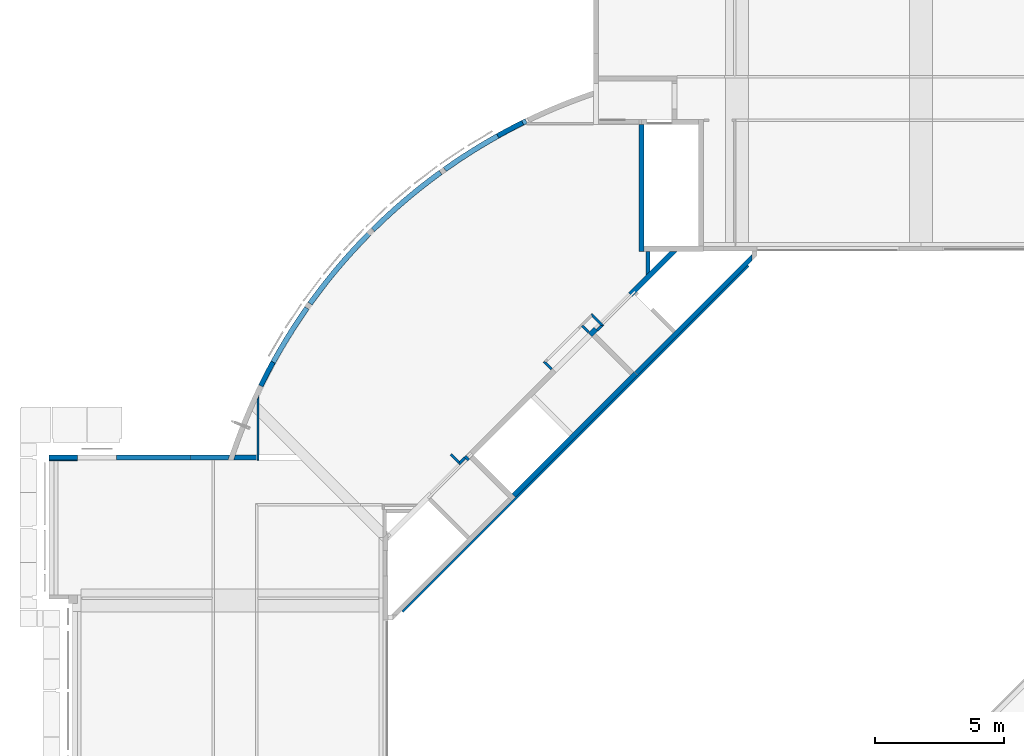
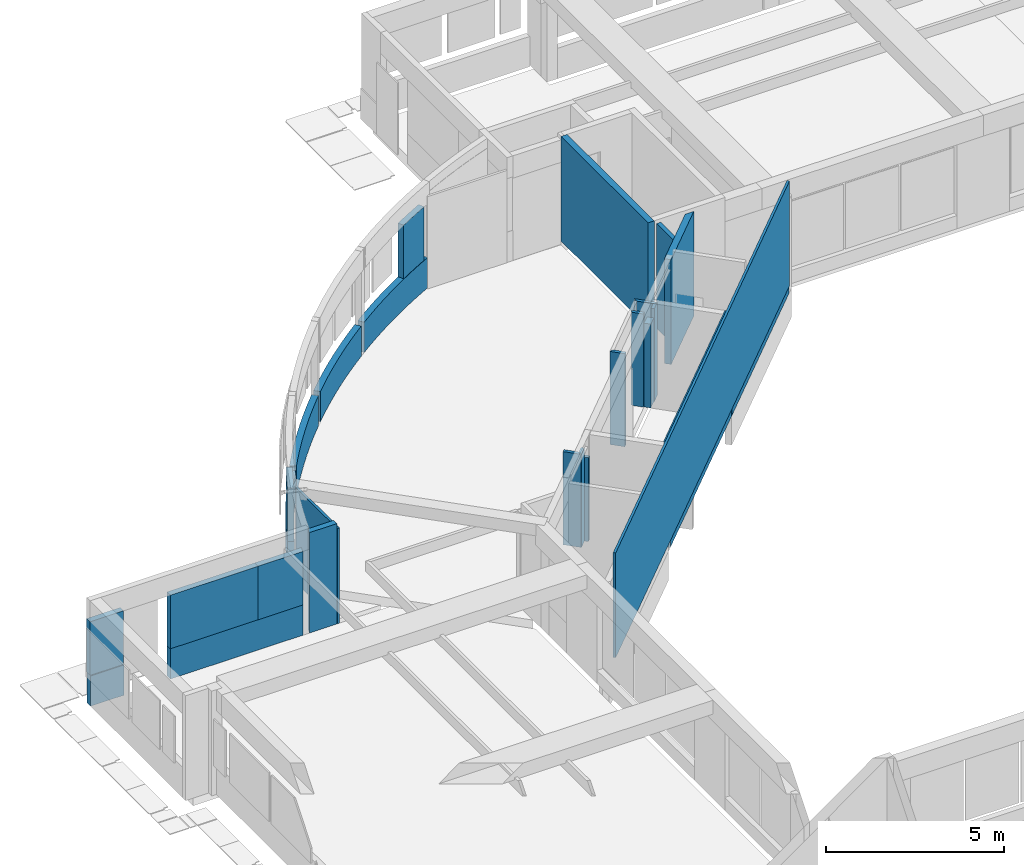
# One storey, part 16 of 26: 27 walls.
"""IFC4X3_ADD2 building model written with IfcOpenShell, lengths in millimetres."""

from ifc_helpers import new_model, si_unit, point, direction, frame, frame_2d, origin_with_axes, origin_2d_with_axis, place, context, subcontext, project, spatial, polyline, circle_curve, trimmed, segment, composite_curve, rectangle, outline, extrude, source, transform, mapped, material, type_object, type_shapes, element, save


model = new_model("IFC4X3_ADD2")

# Units and contexts
model_context = context("Model", 3, precision=1e-05, world=origin_with_axes(), true_north=direction((0.0, 1.0)))
body_context = subcontext(model_context, "Body", "Model", "MODEL_VIEW")
ifc_project = project(units=[si_unit("LENGTHUNIT", "METRE", prefix="MILLI"), si_unit("AREAUNIT", "SQUARE_METRE"), si_unit("VOLUMEUNIT", "CUBIC_METRE"), si_unit("PLANEANGLEUNIT", "RADIAN"), si_unit("TIMEUNIT", "SECOND"), si_unit("MASSUNIT", "GRAM")], contexts=[model_context])

# Site, building, storey
site_placement = place(None, origin_with_axes())
site = spatial("IfcSite", under=ifc_project, at=site_placement, Name="Site", CompositionType="ELEMENT")
building_placement = place(site_placement, origin_with_axes())
building = spatial("IfcBuilding", under=site, at=building_placement, Name="IFC Building Story")
storey_placement = place(building_placement, frame((0.0, 0.0, 7200.0), z_axis=(0.0, 0.0, 1.0), x_axis=(1.0, 0.0, 0.0)))
storey = spatial("IfcBuildingStorey", under=building, at=storey_placement, Name="020", Elevation=7200.0)

# Walls
ifc_material_1 = material(Name="BB_Beton_Bestaand")
wall_type_1 = type_object("IfcWallType", Name="BB_Beton_Bestaand 200", PredefinedType="NOTDEFINED", material=ifc_material_1)
wall_1_placement = place(storey_placement, origin_with_axes())
element("IfcWall", 1, at=wall_1_placement, inside=storey, type_object=wall_type_1, Name="Basic Wall:BB_XX_Wand uit beton, 200 mm", ObjectType="Basic Wall:BB_XX_Wand uit beton, 200 mm", PredefinedType="SOLIDWALL", context=body_context, shape_type="SweptSolid", body=[
    extrude(rectangle(XDim=6670.000000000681, YDim=199.9999999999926, at=frame_2d((0.0, 0.0), x_axis=(0.7071067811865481, 0.7071067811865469))), frame((-31380.15151901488, 31521.57287525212, -200.0), z_axis=(0.0, 0.0, 1.0), x_axis=(1.0, 0.0, 0.0)), (0.0, 0.0, 1.0), 3600.0),
])
wall_2_placement = place(storey_placement, origin_with_axes())
element("IfcWall", 2, at=wall_2_placement, inside=storey, type_object=wall_type_1, Name="Basic Wall:BB_XX_Wand uit beton, 200 mm", ObjectType="Basic Wall:BB_XX_Wand uit beton, 200 mm", PredefinedType="SOLIDWALL", context=body_context, shape_type="SweptSolid", body=[
    extrude(rectangle(XDim=4900.004065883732, YDim=200.0, at=frame_2d((0.0, 0.0), x_axis=(0.0, 1.0))), frame((-28800.0, 41049.99796705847, -80.0), z_axis=(0.0, 0.0, 1.0), x_axis=(1.0, 0.0, 0.0)), (0.0, 0.0, 1.0), 3600.0),
])
wall_3_placement = place(storey_placement, origin_with_axes())
element("IfcWall", 3, at=wall_3_placement, inside=storey, type_object=wall_type_1, Name="Basic Wall:BB_XX_Wand uit beton, 200 mm", ObjectType="Basic Wall:BB_XX_Wand uit beton, 200 mm", PredefinedType="SOLIDWALL", context=body_context, shape_type="SweptSolid", body=[
    extrude(rectangle(XDim=320.0000000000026, YDim=199.9999999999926, at=frame_2d((0.0, 0.0), x_axis=(0.7071067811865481, 0.7071067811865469))), frame((-30676.58027173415, 35477.83531599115, -200.0), z_axis=(0.0, 0.0, 1.0), x_axis=(1.0, 0.0, 0.0)), (0.0, 0.0, 1.0), 2880.0),
])
wall_4_placement = place(storey_placement, origin_with_axes())
element("IfcWall", 4, at=wall_4_placement, inside=storey, type_object=wall_type_1, Name="Basic Wall:BB_XX_Wand uit beton, 200 mm", ObjectType="Basic Wall:BB_XX_Wand uit beton, 200 mm", PredefinedType="SOLIDWALL", context=body_context, shape_type="SweptSolid", body=[
    extrude(outline(polyline([(-907.0065364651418, -765.5851802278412), (694.8745021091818, 836.295858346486), (977.7172145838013, 836.295858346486), (-765.5851802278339, -907.0065364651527), (-907.0065364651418, -765.5851802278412)])), frame((-28390.71551195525, 37763.70007577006, -200.0), z_axis=(0.0, 0.0, 1.0), x_axis=(1.0, 0.0, 0.0)), (0.0, 0.0, 1.0), 3600.0),
])
wall_5_placement = place(storey_placement, origin_with_axes())
element("IfcWall", 5, at=wall_5_placement, inside=storey, type_object=wall_type_1, Name="Basic Wall:BB_XX_Wand uit beton, 200 mm", ObjectType="Basic Wall:BB_XX_Wand uit beton, 200 mm", PredefinedType="SOLIDWALL", context=body_context, shape_type="SweptSolid", body=[
    extrude(outline(composite_curve([segment(polyline([(-1516.513105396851, -1015.014196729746), (-1632.315071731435, -851.9500848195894)]), True, "CONTINUOUS"), segment(trimmed(circle_curve(frame_2d((11313.28981030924, -19081.0322847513), x_axis=(1.0, 0.0)), 22358.17800299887), [point((-1632.315071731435, -851.9500848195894))], [point((1530.65994246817, 1023.40196450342))], False, "CARTESIAN"), True, "CONTINUOUS"), segment(polyline([(1530.65994246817, 1023.40196450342), (1618.168234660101, 843.5623170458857)]), True, "CONTINUOUS"), segment(trimmed(circle_curve(frame_2d((11313.28981030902, -19081.03228475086), x_axis=(1.0, 0.0)), 22158.17800299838), [point((1618.168234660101, 843.5623170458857))], [point((-1516.513105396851, -1015.014196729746))], True, "CARTESIAN"), True, "CONTINUOUS")], self_intersect=False)), frame((-34830.13785646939, 42699.28552853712, -200.0), z_axis=(0.0, 0.0, 1.0), x_axis=(1.0, 0.0, 0.0)), (0.0, 0.0, 1.0), 1040.0),
])
wall_6_placement = place(storey_placement, origin_with_axes())
element("IfcWall", 6, at=wall_6_placement, inside=storey, type_object=wall_type_1, Name="Basic Wall:BB_XX_Wand uit beton, 200 mm", ObjectType="Basic Wall:BB_XX_Wand uit beton, 200 mm", PredefinedType="SOLIDWALL", context=body_context, shape_type="SweptSolid", body=[
    extrude(outline(composite_curve([segment(polyline([(-800.5696430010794, -1549.586084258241), (-980.2362588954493, -1461.723082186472)]), True, "CONTINUOUS"), segment(trimmed(circle_curve(frame_2d((18967.24977084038, -11216.71288721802), x_axis=(1.0, 0.0)), 22205.0000000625), [point((-980.2362588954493, -1461.723082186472))], [point((808.6257656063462, 1563.208835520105))], False, "CARTESIAN"), True, "CONTINUOUS"), segment(polyline([(808.6257656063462, 1563.208835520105), (972.1801362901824, 1448.100330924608)]), True, "CONTINUOUS"), segment(trimmed(circle_curve(frame_2d((18967.24977084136, -11216.71288721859), x_axis=(1.0, 0.0)), 22005.00000006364), [point((972.1801362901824, 1448.100330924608))], [point((-800.5696430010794, -1549.586084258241))], True, "CARTESIAN"), True, "CONTINUOUS")], self_intersect=False)), frame((-42621.70268408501, 34902.25952695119, -200.0), z_axis=(0.0, 0.0, 1.0), x_axis=(1.0, 0.0, 0.0)), (0.0, 0.0, 1.0), 1040.0),
])
wall_7_placement = place(storey_placement, origin_with_axes())
element("IfcWall", 7, at=wall_7_placement, inside=storey, type_object=wall_type_1, Name="Basic Wall:BB_XX_Wand uit beton, 200 mm", ObjectType="Basic Wall:BB_XX_Wand uit beton, 200 mm", PredefinedType="SOLIDWALL", context=body_context, shape_type="SweptSolid", body=[
    extrude(outline(composite_curve([segment(polyline([(-1061.077704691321, -1411.163488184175), (-1223.669789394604, -1294.699699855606)]), True, "CONTINUOUS"), segment(trimmed(circle_curve(frame_2d((16952.64406898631, -14314.29025160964), x_axis=(1.0, 0.0)), 22358.17800299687), [point((-1223.669789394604, -1294.699699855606))], [point((1071.342459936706, 1423.32020284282))], False, "CARTESIAN"), True, "CONTINUOUS"), segment(polyline([(1071.342459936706, 1423.32020284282), (1213.40503414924, 1282.542985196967)]), True, "CONTINUOUS"), segment(trimmed(circle_curve(frame_2d((16952.64406898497, -14314.29025160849), x_axis=(1.0, 0.0)), 22158.1780029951), [point((1213.40503414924, 1282.542985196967))], [point((-1061.077704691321, -1411.163488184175))], True, "CARTESIAN"), True, "CONTINUOUS")], self_intersect=False)), frame((-40469.49211514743, 37932.54349539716, -200.0), z_axis=(0.0, 0.0, 1.0), x_axis=(1.0, 0.0, 0.0)), (0.0, 0.0, 1.0), 1040.0),
])
wall_8_placement = place(storey_placement, origin_with_axes())
element("IfcWall", 8, at=wall_8_placement, inside=storey, type_object=wall_type_1, Name="Basic Wall:BB_XX_Wand uit beton, 200 mm", ObjectType="Basic Wall:BB_XX_Wand uit beton, 200 mm", PredefinedType="SOLIDWALL", context=body_context, shape_type="SweptSolid", body=[
    extrude(outline(composite_curve([segment(polyline([(-1236.639113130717, -1180.347508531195), (-1377.416330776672, -1038.284934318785)]), True, "CONTINUOUS"), segment(trimmed(circle_curve(frame_2d((14360.19412370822, -16919.58654333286), x_axis=(1.0, 0.0)), 22358.17800299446), [point((-1377.416330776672, -1038.284934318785))], [point((1248.383360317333, 1190.315226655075))], False, "CARTESIAN"), True, "CONTINUOUS"), segment(polyline([(1248.383360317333, 1190.315226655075), (1365.672083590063, 1028.317216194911)]), True, "CONTINUOUS"), segment(trimmed(circle_curve(frame_2d((14360.1941237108, -16919.58654333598), x_axis=(1.0, 0.0)), 22158.1780029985), [point((1365.672083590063, 1028.317216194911))], [point((-1236.639113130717, -1180.347508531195))], True, "CARTESIAN"), True, "CONTINUOUS")], self_intersect=False)), frame((-37877.04216987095, 40537.83978712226, -200.0), z_axis=(0.0, 0.0, 1.0), x_axis=(1.0, 0.0, 0.0)), (0.0, 0.0, 1.0), 1040.0),
])
wall_type_2 = type_object("IfcWallType", Name="BB_Beton_Bestaand 190", PredefinedType="NOTDEFINED", material=ifc_material_1)
wall_9_placement = place(storey_placement, origin_with_axes())
element("IfcWall", 9, at=wall_9_placement, inside=storey, type_object=wall_type_2, Name="Basic Wall:BB_XX_Wand uit beton, 190 mm", ObjectType="Basic Wall:BB_XX_Wand uit beton, 190 mm", PredefinedType="SOLIDWALL", context=body_context, shape_type="SweptSolid", body=[
    extrude(rectangle(XDim=1089.99999999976, YDim=190.0, at=origin_2d_with_axis()), frame((-51150.00000000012, 30600.0, -200.0), z_axis=(0.0, 0.0, 1.0), x_axis=(1.0, 0.0, 0.0)), (0.0, 0.0, 1.0), 1040.0),
])
wall_10_placement = place(storey_placement, origin_with_axes())
element("IfcWall", 10, at=wall_10_placement, inside=storey, type_object=wall_type_2, Name="Basic Wall:BB_XX_Wand uit beton, 190 mm", ObjectType="Basic Wall:BB_XX_Wand uit beton, 190 mm", PredefinedType="SOLIDWALL", context=body_context, shape_type="SweptSolid", body=[
    extrude(rectangle(XDim=1089.999999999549, YDim=190.0, at=origin_2d_with_axis()), frame((-51150.00000000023, 30630.0, 840.0), z_axis=(0.0, 0.0, 1.0), x_axis=(1.0, 0.0, 0.0)), (0.0, 0.0, 1.0), 1840.0),
])
wall_11_placement = place(storey_placement, origin_with_axes())
element("IfcWall", 11, at=wall_11_placement, inside=storey, type_object=wall_type_2, Name="Basic Wall:BB_XX_Wand uit beton, 190 mm", ObjectType="Basic Wall:BB_XX_Wand uit beton, 190 mm", PredefinedType="SOLIDWALL", context=body_context, shape_type="SweptSolid", body=[
    extrude(outline(composite_curve([segment(polyline([(-21261.39078150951, 6916.746756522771), (-25568.1519547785, 6916.746756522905)]), True, "CONTINUOUS"), segment(polyline([(-25568.1519547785, 6916.746756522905), (-25568.1519547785, 7106.746756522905)]), True, "CONTINUOUS"), segment(polyline([(-25568.1519547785, 7106.746756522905), (-21198.63849865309, 7106.746756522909)]), True, "CONTINUOUS"), segment(trimmed(circle_curve(origin_2d_with_axis(), 22358.17800398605), [point((-21198.63849865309, 7106.746756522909))], [point((-21261.39078150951, 6916.746756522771))], True, "CARTESIAN"), True, "CONTINUOUS")], self_intersect=False)), frame((-23516.8480452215, 23618.25324347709, -200.0), z_axis=(0.0, 0.0, 1.0), x_axis=(1.0, 0.0, 0.0)), (0.0, 0.0, 1.0), 1040.0),
])
ifc_material_2 = material(Name="BB_Metselwerk_Bestaand")
wall_type_3 = type_object("IfcWallType", Name="BB_Metselwerk_Bestaand 140", PredefinedType="NOTDEFINED", material=ifc_material_2)
wall_12_placement = place(storey_placement, origin_with_axes())
element("IfcWall", 12, at=wall_12_placement, inside=storey, type_object=wall_type_3, Name="Basic Wall:BB_XX_Wand uit metselwerk, 140 mm", ObjectType="Basic Wall:BB_XX_Wand uit metselwerk, 140 mm", PredefinedType="SOLIDWALL", context=body_context, shape_type="SweptSolid", body=[
    extrude(outline(polyline([(-69.99999999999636, -499.0794950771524), (-69.99999999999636, 429.0794950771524), (70.0, 429.0794950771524), (70.0, -359.0794950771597), (-69.99999999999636, -499.0794950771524)])), frame((-28554.0, 38170.91643903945, -200.0), z_axis=(0.0, 0.0, 1.0), x_axis=(1.0, 0.0, 0.0)), (0.0, 0.0, 1.0), 3600.0),
])
wall_type_4 = type_object("IfcWallType", Name="BB_Metselwerk_Bestaand 190", PredefinedType="NOTDEFINED", material=ifc_material_2)
wall_13_placement = place(storey_placement, origin_with_axes())
element("IfcWall", 13, at=wall_13_placement, inside=storey, type_object=wall_type_4, Name="Basic Wall:BB_XX_Wand uit metselwerk, 190 mm", ObjectType="Basic Wall:BB_XX_Wand uit metselwerk, 190 mm", PredefinedType="SOLIDWALL", context=body_context, shape_type="SweptSolid", body=[
    extrude(outline(composite_curve([segment(polyline([(-22718.15195343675, 6916.7467560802), (-22718.15195343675, 7106.7467560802)]), True, "CONTINUOUS"), segment(polyline([(-22718.15195343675, 7106.7467560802), (-21198.63849731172, 7106.746756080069)]), True, "CONTINUOUS"), segment(trimmed(circle_curve(origin_2d_with_axis(), 22358.17800257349), [point((-21198.63849731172, 7106.746756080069))], [point((-21261.39078016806, 6916.746756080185))], True, "CARTESIAN"), True, "CONTINUOUS"), segment(polyline([(-21261.39078016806, 6916.746756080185), (-22718.15195343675, 6916.7467560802)]), True, "CONTINUOUS")], self_intersect=False)), frame((-23516.84804656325, 23618.25324391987, 840.0), z_axis=(0.0, 0.0, 1.0), x_axis=(1.0, 0.0, 0.0)), (0.0, 0.0, 1.0), 1840.0),
])
ifc_material_3 = material(Name="BB_Metselwerk_Betonsteen")
wall_type_5 = type_object("IfcWallType", Name="BB_Metselwerk_Betonsteen 190", PredefinedType="NOTDEFINED", material=ifc_material_3)
wall_14_placement = place(storey_placement, origin_with_axes())
element("IfcWall", 14, at=wall_14_placement, inside=storey, type_object=wall_type_5, Name="Basic Wall:BB_03.09.24#03_Wand uit metselwerk, 190 mm", ObjectType="Basic Wall:BB_03.09.24#03_Wand uit metselwerk, 190 mm", PredefinedType="SOLIDWALL", context=body_context, shape_type="SweptSolid", body=[
    extrude(outline(composite_curve([segment(polyline([(154.2886492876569, 504.2357903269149), (320.9164055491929, 412.9385239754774)]), True, "CONTINUOUS"), segment(trimmed(circle_curve(frame_2d((19762.14672685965, -10239.13543214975), x_axis=(1.0, 0.0)), 22168.17800300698), [point((320.9164055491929, 412.9385239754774))], [point((-152.2608848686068, -500.3220831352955))], True, "CARTESIAN"), True, "CONTINUOUS"), segment(polyline([(-152.2608848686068, -500.3220831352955), (-322.9441699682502, -416.8522311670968)]), True, "CONTINUOUS"), segment(trimmed(circle_curve(frame_2d((19762.14672686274, -10239.13543215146), x_axis=(1.0, 0.0)), 22358.1780030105), [point((-322.9441699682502, -416.8522311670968))], [point((154.2886492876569, 504.2357903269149))], False, "CARTESIAN"), True, "CONTINUOUS")], self_intersect=False)), frame((-43278.99477301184, 33857.38867593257, 840.0), z_axis=(0.0, 0.0, 1.0), x_axis=(1.0, 0.0, 0.0)), (0.0, 0.0, 1.0), 1840.0),
])
wall_15_placement = place(storey_placement, origin_with_axes())
element("IfcWall", 15, at=wall_15_placement, inside=storey, type_object=wall_type_5, Name="Basic Wall:BB_03.09.24#03_Wand uit metselwerk, 190 mm", ObjectType="Basic Wall:BB_03.09.24#03_Wand uit metselwerk, 190 mm", PredefinedType="SOLIDWALL", context=body_context, shape_type="SweptSolid", body=[
    extrude(rectangle(XDim=2850.000000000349, YDim=190.0, at=origin_2d_with_axis()), frame((-47659.99999999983, 30630.0, 840.0), z_axis=(0.0, 0.0, 1.0), x_axis=(1.0, 0.0, 0.0)), (0.0, 0.0, 1.0), 1840.0),
])
wall_16_placement = place(storey_placement, origin_with_axes())
element("IfcWall", 16, at=wall_16_placement, inside=storey, type_object=wall_type_5, Name="Basic Wall:BB_03.09.24#03_Wand uit metselwerk, 190 mm", ObjectType="Basic Wall:BB_03.09.24#03_Wand uit metselwerk, 190 mm", PredefinedType="SOLIDWALL", context=body_context, shape_type="SweptSolid", body=[
    extrude(outline(composite_curve([segment(polyline([(438.2397821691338, 337.9015794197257), (522.5852499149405, 167.6492899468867)]), True, "CONTINUOUS"), segment(trimmed(circle_curve(frame_2d((10363.56073800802, -19696.47207031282), x_axis=(1.0, 0.0)), 22168.17800299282), [point((522.5852499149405, 167.6492899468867))], [point((-434.1398114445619, -335.7443252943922))], True, "CARTESIAN"), True, "CONTINUOUS"), segment(polyline([(-434.1398114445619, -335.7443252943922), (-526.6852206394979, -169.806544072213)]), True, "CONTINUOUS"), segment(trimmed(circle_curve(frame_2d((10363.56073800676, -19696.47207030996), x_axis=(1.0, 0.0)), 22358.17800298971), [point((-526.6852206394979, -169.806544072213))], [point((438.2397821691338, 337.9015794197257))], False, "CARTESIAN"), True, "CONTINUOUS")], self_intersect=False)), frame((-33880.40878417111, 43314.72531410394, 840.0), z_axis=(0.0, 0.0, 1.0), x_axis=(1.0, 0.0, 0.0)), (0.0, 0.0, 1.0), 1840.0),
])
wall_17_placement = place(storey_placement, origin_with_axes())
element("IfcWall", 17, at=wall_17_placement, inside=storey, type_object=wall_type_5, Name="Basic Wall:BB_03.09.24#03_Wand uit metselwerk, 190 mm", ObjectType="Basic Wall:BB_03.09.24#03_Wand uit metselwerk, 190 mm", PredefinedType="SOLIDWALL", context=body_context, shape_type="SweptSolid", body=[
    extrude(outline(composite_curve([segment(polyline([(-20987.59164197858, 7106.74675601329), (-20158.15195324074, 7106.746756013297)]), True, "CONTINUOUS"), segment(polyline([(-20158.15195324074, 7106.746756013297), (-20158.15195324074, 6916.746756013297)]), True, "CONTINUOUS"), segment(polyline([(-20158.15195324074, 6916.746756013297), (-21050.97305821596, 6916.746756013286)]), True, "CONTINUOUS"), segment(trimmed(circle_curve(origin_2d_with_axis(), 22158.17800236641), [point((-21050.97305821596, 6916.746756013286))], [point((-20987.59164197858, 7106.74675601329))], False, "CARTESIAN"), True, "CONTINUOUS")], self_intersect=False)), frame((-23516.84804675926, 23618.25324398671, -200.0), z_axis=(0.0, 0.0, 1.0), x_axis=(1.0, 0.0, 0.0)), (0.0, 0.0, 1.0), 3450.0),
])
wall_18_placement = place(storey_placement, origin_with_axes())
element("IfcWall", 18, at=wall_18_placement, inside=storey, type_object=wall_type_5, Name="Basic Wall:BB_03.09.24#05_Wand uit metselwerk_EI60, 190 mm", ObjectType="Basic Wall:BB_03.09.24#05_Wand uit metselwerk_EI60, 190 mm", PredefinedType="SOLIDWALL", context=body_context, shape_type="SweptSolid", body=[
    extrude(outline(polyline([(2236.404134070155, 2102.05384564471), (-2169.228989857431, -2303.579278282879), (-2303.579278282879, -2169.228989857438), (2236.404134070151, 2370.754422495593), (2236.404134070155, 2102.05384564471)])), frame((-26771.40413407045, 36123.24919239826, -200.0), z_axis=(0.0, 0.0, 1.0), x_axis=(1.0, 0.0, 0.0)), (0.0, 0.0, 1.0), 3200.0),
])
wall_type_6 = type_object("IfcWallType", Name="Basic Wall_BB_10.01.41#01_Gipskartonwand_MS100 _ 25.50.25_ 100 mm75", PredefinedType="NOTDEFINED")
shared_shape_1 = source(origin_with_axes(), body_context, "Body", "SweptSolid", [
    extrude(rectangle(XDim=329.999999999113, YDim=12.50000000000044, at=origin_2d_with_axis()), frame((165.0000000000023, 43.7499999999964, 0.0), z_axis=(0.0, 0.0, 1.0), x_axis=(1.0, 0.0, 0.0)), (0.0, 0.0, 1.0), 3200.0),
    extrude(rectangle(XDim=317.499999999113, YDim=12.5000000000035, at=origin_2d_with_axis()), frame((158.7499999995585, 31.2499999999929, 0.0), z_axis=(0.0, 0.0, 1.0), x_axis=(1.0, 0.0, 0.0)), (0.0, 0.0, 1.0), 3200.0),
    extrude(rectangle(XDim=304.999999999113, YDim=49.9999999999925, at=origin_2d_with_axis()), frame((152.4999999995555, -1.524114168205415e-12, 0.0), z_axis=(0.0, 0.0, 1.0), x_axis=(1.0, 0.0, 0.0)), (0.0, 0.0, 1.0), 3200.0),
    extrude(rectangle(XDim=254.999999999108, YDim=12.50000000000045, at=origin_2d_with_axis()), frame((127.4999999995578, -31.2499999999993, 0.0), z_axis=(0.0, 0.0, 1.0), x_axis=(1.0, 0.0, 0.0)), (0.0, 0.0, 1.0), 3200.0),
    extrude(rectangle(XDim=242.4999999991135, YDim=12.50000000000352, at=origin_2d_with_axis()), frame((121.2500000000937, -43.75000000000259, 0.0), z_axis=(0.0, 0.0, 1.0), x_axis=(1.0, 0.0, 0.0)), (0.0, 0.0, 1.0), 3200.0),
])
type_shapes(wall_type_6, [shared_shape_1])
wall_19_placement = place(storey_placement, frame((-35636.9343417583, 30609.4051275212, -200.0), z_axis=(0.0, 0.0, 1.0), x_axis=(-0.7071067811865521, -0.707106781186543, 0.0)))
element("IfcWall", 19, at=wall_19_placement, inside=storey, type_object=wall_type_6, Name="Basic Wall:BB_10.01.41#01_Gipskartonwand_MS100 / 25.50.25, 100 mm", ObjectType="Basic Wall:BB_10.01.41#01_Gipskartonwand_MS100 / 25.50.25, 100 mm", PredefinedType="PARTITIONING", context=body_context, shape_type="MappedRepresentation", body=[
    mapped(shared_shape_1, transform((0.0, 0.0, 0.0))),
])
wall_type_7 = type_object("IfcWallType", Name="Basic Wall_BB_10.01.41#01_Gipskartonwand_MS100 _ 25.50.25_ 100 mm77", PredefinedType="NOTDEFINED")
shared_shape_2 = source(origin_with_axes(), body_context, "Body", "SweptSolid", [
    extrude(rectangle(XDim=522.499999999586, YDim=12.50000000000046, at=origin_2d_with_axis()), frame((173.7499999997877, 43.7499999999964, 0.0), z_axis=(0.0, 0.0, 1.0), x_axis=(1.0, 0.0, 0.0)), (0.0, 0.0, 1.0), 3200.0),
    extrude(rectangle(XDim=509.999999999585, YDim=12.49999999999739, at=origin_2d_with_axis()), frame((179.9999999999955, 31.24999999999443, 0.0), z_axis=(0.0, 0.0, 1.0), x_axis=(1.0, 0.0, 0.0)), (0.0, 0.0, 1.0), 3200.0),
    extrude(rectangle(XDim=459.999999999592, YDim=49.99999999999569, at=origin_2d_with_axis()), frame((205.0000000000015, -3.073097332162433e-12, 0.0), z_axis=(0.0, 0.0, 1.0), x_axis=(1.0, 0.0, 0.0)), (0.0, 0.0, 1.0), 3200.0),
    extrude(rectangle(XDim=447.499999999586, YDim=12.50000000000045, at=origin_2d_with_axis()), frame((211.2499999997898, -31.24999999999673, 0.0), z_axis=(0.0, 0.0, 1.0), x_axis=(1.0, 0.0, 0.0)), (0.0, 0.0, 1.0), 3200.0),
    extrude(rectangle(XDim=434.999999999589, YDim=12.50000000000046, at=origin_2d_with_axis()), frame((217.4999999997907, -43.75000000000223, 0.0), z_axis=(0.0, 0.0, 1.0), x_axis=(1.0, 0.0, 0.0)), (0.0, 0.0, 1.0), 3200.0),
])
type_shapes(wall_type_7, [shared_shape_2])
wall_20_placement = place(storey_placement, frame((-35870.279579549, 30446.7705678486, -200.0), z_axis=(0.0, 0.0, 1.0), x_axis=(-0.7071067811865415, 0.7071067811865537, 0.0)))
element("IfcWall", 20, at=wall_20_placement, inside=storey, type_object=wall_type_7, Name="Basic Wall:BB_10.01.41#01_Gipskartonwand_MS100 / 25.50.25, 100 mm", ObjectType="Basic Wall:BB_10.01.41#01_Gipskartonwand_MS100 / 25.50.25, 100 mm", PredefinedType="PARTITIONING", context=body_context, shape_type="MappedRepresentation", body=[
    mapped(shared_shape_2, transform((0.0, 0.0, 0.0))),
])
wall_type_8 = type_object("IfcWallType", Name="Basic Wall_BB_10.01.41#21_Gipskartonwand_EI60_43dB_MS100 _ 25.50.25_ 100 mm55", PredefinedType="NOTDEFINED")
shared_shape_3 = source(origin_with_axes(), body_context, "Body", "SweptSolid", [
    extrude(rectangle(XDim=434.9999999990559, YDim=12.50000000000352, at=origin_2d_with_axis()), frame((217.499999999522, 43.74999999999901, 0.0), z_axis=(0.0, 0.0, 1.0), x_axis=(1.0, 0.0, 0.0)), (0.0, 0.0, 1.0), 3200.0),
    extrude(rectangle(XDim=422.499999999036, YDim=12.50000000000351, at=origin_2d_with_axis()), frame((211.2499999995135, 31.24999999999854, 0.0), z_axis=(0.0, 0.0, 1.0), x_axis=(1.0, 0.0, 0.0)), (0.0, 0.0, 1.0), 3200.0),
    extrude(rectangle(XDim=409.999999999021, YDim=49.9999999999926, at=origin_2d_with_axis()), frame((205.0000000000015, -3.073097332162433e-12, 0.0), z_axis=(0.0, 0.0, 1.0), x_axis=(1.0, 0.0, 0.0)), (0.0, 0.0, 1.0), 3200.0),
    extrude(rectangle(XDim=359.999999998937, YDim=12.50000000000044, at=origin_2d_with_axis()), frame((179.9999999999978, -31.2499999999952, 0.0), z_axis=(0.0, 0.0, 1.0), x_axis=(1.0, 0.0, 0.0)), (0.0, 0.0, 1.0), 3200.0),
    extrude(rectangle(XDim=347.499999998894, YDim=12.50000000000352, at=origin_2d_with_axis()), frame((173.7500000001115, -43.75000000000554, 0.0), z_axis=(0.0, 0.0, 1.0), x_axis=(1.0, 0.0, 0.0)), (0.0, 0.0, 1.0), 3200.0),
])
type_shapes(wall_type_8, [shared_shape_3])
wall_21_placement = place(storey_placement, frame((-32271.8131700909, 34045.2369773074, -200.0), z_axis=(0.0, 0.0, 1.0), x_axis=(-0.7071067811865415, 0.7071067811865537, 0.0)))
element("IfcWall", 21, at=wall_21_placement, inside=storey, type_object=wall_type_8, Name="Basic Wall:BB_10.01.41#21_Gipskartonwand_EI60_43dB_MS100 / 25.50.25, 100 mm", ObjectType="Basic Wall:BB_10.01.41#21_Gipskartonwand_EI60_43dB_MS100 / 25.50.25, 100 mm", PredefinedType="PARTITIONING", context=body_context, shape_type="MappedRepresentation", body=[
    mapped(shared_shape_3, transform((0.0, 0.0, 0.0))),
])
wall_type_9 = type_object("IfcWallType", Name="Basic Wall_BB_10.01.41#21_Gipskartonwand_EI60_43dB_MS100 _ 25.50.25_ 100 mm59", PredefinedType="NOTDEFINED")
shared_shape_4 = source(origin_with_axes(), body_context, "Body", "SweptSolid", [
    extrude(rectangle(XDim=334.999999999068, YDim=12.50000000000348, at=origin_2d_with_axis()), frame((167.4999999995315, 43.7499999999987, 0.0), z_axis=(0.0, 0.0, 1.0), x_axis=(1.0, 0.0, 0.0)), (0.0, 0.0, 1.0), 3200.0),
    extrude(rectangle(XDim=334.999999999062, YDim=12.49999999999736, at=origin_2d_with_axis()), frame((167.4999999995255, 31.24999999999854, 0.0), z_axis=(0.0, 0.0, 1.0), x_axis=(1.0, 0.0, 0.0)), (0.0, 0.0, 1.0), 3200.0),
    extrude(rectangle(XDim=359.999999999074, YDim=50.0000000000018, at=origin_2d_with_axis()), frame((155.0000000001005, -3.101519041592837e-12, 0.0), z_axis=(0.0, 0.0, 1.0), x_axis=(1.0, 0.0, 0.0)), (0.0, 0.0, 1.0), 3200.0),
    extrude(rectangle(XDim=347.499999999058, YDim=12.4999999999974, at=origin_2d_with_axis()), frame((161.2499999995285, -31.2500000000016, 0.0), z_axis=(0.0, 0.0, 1.0), x_axis=(1.0, 0.0, 0.0)), (0.0, 0.0, 1.0), 3200.0),
    extrude(rectangle(XDim=334.999999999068, YDim=12.49999999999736, at=origin_2d_with_axis()), frame((167.49999999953, -43.74999999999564, 0.0), z_axis=(0.0, 0.0, 1.0), x_axis=(1.0, 0.0, 0.0)), (0.0, 0.0, 1.0), 3200.0),
])
type_shapes(wall_type_9, [shared_shape_4])
wall_22_placement = place(storey_placement, frame((-31083.1666709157, 35707.6450198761, -200.0), z_axis=(0.0, 0.0, 1.0), x_axis=(0.7071067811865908, -0.7071067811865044, 0.0)))
element("IfcWall", 22, at=wall_22_placement, inside=storey, type_object=wall_type_9, Name="Basic Wall:BB_10.01.41#21_Gipskartonwand_EI60_43dB_MS100 / 25.50.25, 100 mm", ObjectType="Basic Wall:BB_10.01.41#21_Gipskartonwand_EI60_43dB_MS100 / 25.50.25, 100 mm", PredefinedType="PARTITIONING", context=body_context, shape_type="MappedRepresentation", body=[
    mapped(shared_shape_4, transform((0.0, 0.0, 0.0))),
])
wall_type_10 = type_object("IfcWallType", Name="Basic Wall_BB_10.01.41#21_Gipskartonwand_EI60_43dB_MS100 _ 25.50.25_ 100 mm61", PredefinedType="NOTDEFINED")
shared_shape_5 = source(origin_with_axes(), body_context, "Body", "SweptSolid", [
    extrude(rectangle(XDim=664.9999999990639, YDim=12.50000000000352, at=origin_2d_with_axis()), frame((332.4999999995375, 43.74999999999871, 0.0), z_axis=(0.0, 0.0, 1.0), x_axis=(1.0, 0.0, 0.0)), (0.0, 0.0, 1.0), 3200.0),
    extrude(rectangle(XDim=639.999999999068, YDim=12.49999999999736, at=origin_2d_with_axis()), frame((332.499999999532, 31.2499999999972, 0.0), z_axis=(0.0, 0.0, 1.0), x_axis=(1.0, 0.0, 0.0)), (0.0, 0.0, 1.0), 3200.0),
    extrude(rectangle(XDim=614.9999999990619, YDim=50.00000000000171, at=origin_2d_with_axis()), frame((332.49999999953, 3.075761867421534e-12, 0.0), z_axis=(0.0, 0.0, 1.0), x_axis=(1.0, 0.0, 0.0)), (0.0, 0.0, 1.0), 3200.0),
    extrude(rectangle(XDim=514.999999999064, YDim=12.49999999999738, at=origin_2d_with_axis()), frame((332.499999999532, -31.25000000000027, 0.0), z_axis=(0.0, 0.0, 1.0), x_axis=(1.0, 0.0, 0.0)), (0.0, 0.0, 1.0), 3200.0),
    extrude(rectangle(XDim=489.999999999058, YDim=12.49999999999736, at=origin_2d_with_axis()), frame((332.499999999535, -43.75000000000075, 0.0), z_axis=(0.0, 0.0, 1.0), x_axis=(1.0, 0.0, 0.0)), (0.0, 0.0, 1.0), 3200.0),
])
type_shapes(wall_type_10, [shared_shape_5])
wall_23_placement = place(storey_placement, frame((-30754.362017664, 36177.8710293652, -200.0), z_axis=(0.0, 0.0, 1.0), x_axis=(0.7071067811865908, -0.7071067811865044, 0.0)))
element("IfcWall", 23, at=wall_23_placement, inside=storey, type_object=wall_type_10, Name="Basic Wall:BB_10.01.41#21_Gipskartonwand_EI60_43dB_MS100 / 25.50.25, 100 mm", ObjectType="Basic Wall:BB_10.01.41#21_Gipskartonwand_EI60_43dB_MS100 / 25.50.25, 100 mm", PredefinedType="PARTITIONING", context=body_context, shape_type="MappedRepresentation", body=[
    mapped(shared_shape_5, transform((0.0, 0.0, 0.0))),
])
wall_type_11 = type_object("IfcWallType", Name="Basic Wall_BB_10.01.41#21_Gipskartonwand_EI60_43dB_MS100 _ 25.50.25_ 100 mm63", PredefinedType="NOTDEFINED")
shared_shape_6 = source(origin_with_axes(), body_context, "Body", "SweptSolid", [
    extrude(rectangle(XDim=317.500000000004, YDim=12.50000000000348, at=origin_2d_with_axis()), frame((71.25000000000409, 43.7499999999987, 0.0), z_axis=(0.0, 0.0, 1.0), x_axis=(1.0, 0.0, 0.0)), (0.0, 0.0, 1.0), 3200.0),
    extrude(rectangle(XDim=305.000000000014, YDim=12.49999999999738, at=origin_2d_with_axis()), frame((77.50000000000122, 31.2499999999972, 0.0), z_axis=(0.0, 0.0, 1.0), x_axis=(1.0, 0.0, 0.0)), (0.0, 0.0, 1.0), 3200.0),
    extrude(rectangle(XDim=255.000000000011, YDim=50.0000000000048, at=origin_2d_with_axis()), frame((102.5000000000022, -3.82716081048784e-12, 0.0), z_axis=(0.0, 0.0, 1.0), x_axis=(1.0, 0.0, 0.0)), (0.0, 0.0, 1.0), 3200.0),
    extrude(rectangle(XDim=242.499999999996, YDim=12.49999999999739, at=origin_2d_with_axis()), frame((108.7500000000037, -31.25000000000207, 0.0), z_axis=(0.0, 0.0, 1.0), x_axis=(1.0, 0.0, 0.0)), (0.0, 0.0, 1.0), 3200.0),
    extrude(rectangle(XDim=230.000000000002, YDim=12.49999999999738, at=origin_2d_with_axis()), frame((114.9999999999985, -43.75000000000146, 0.0), z_axis=(0.0, 0.0, 1.0), x_axis=(1.0, 0.0, 0.0)), (0.0, 0.0, 1.0), 3200.0),
])
type_shapes(wall_type_11, [shared_shape_6])
wall_24_placement = place(storey_placement, frame((-30354.8466862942, 35707.6450198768, -200.0), z_axis=(0.0, 0.0, 1.0), x_axis=(-0.7071067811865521, -0.707106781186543, 0.0)))
element("IfcWall", 24, at=wall_24_placement, inside=storey, type_object=wall_type_11, Name="Basic Wall:BB_10.01.41#21_Gipskartonwand_EI60_43dB_MS100 / 25.50.25, 100 mm", ObjectType="Basic Wall:BB_10.01.41#21_Gipskartonwand_EI60_43dB_MS100 / 25.50.25, 100 mm", PredefinedType="PARTITIONING", context=body_context, shape_type="MappedRepresentation", body=[
    mapped(shared_shape_6, transform((0.0, 0.0, 0.0))),
])
wall_type_12 = type_object("IfcWallType", Name="Basic Wall_BB_10.01_Akoestische voorzetwand atrium_ 75 mm3", PredefinedType="NOTDEFINED")
shared_shape_7 = source(origin_with_axes(), body_context, "Body", "SweptSolid", [
    extrude(rectangle(XDim=18900.0, YDim=49.99999999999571, at=origin_2d_with_axis()), frame((9449.999999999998, 12.49999999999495, 0.0), z_axis=(0.0, 0.0, 1.0), x_axis=(1.0, 0.0, 0.0)), (0.0, 0.0, 1.0), 3600.0),
    extrude(rectangle(XDim=18899.99999999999, YDim=12.50000000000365, at=origin_2d_with_axis()), frame((9450.000000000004, -18.7500000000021, 0.0), z_axis=(0.0, 0.0, 1.0), x_axis=(1.0, 0.0, 0.0)), (0.0, 0.0, 1.0), 3600.0),
    extrude(rectangle(XDim=18900.0, YDim=12.50000000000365, at=origin_2d_with_axis()), frame((9449.999999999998, -31.25000000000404, 0.0), z_axis=(0.0, 0.0, 1.0), x_axis=(1.0, 0.0, 0.0)), (0.0, 0.0, 1.0), 3600.0),
])
type_shapes(wall_type_12, [shared_shape_7])
wall_25_placement = place(storey_placement, frame((-38035.7940969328, 24671.4759325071, 230.0), z_axis=(0.0, 0.0, 1.0), x_axis=(0.7071067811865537, 0.7071067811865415, 0.0)))
element("IfcWall", 25, at=wall_25_placement, inside=storey, type_object=wall_type_12, Name="Basic Wall:BB_10.01_Akoestische voorzetwand atrium, 75 mm", ObjectType="Basic Wall:BB_10.01_Akoestische voorzetwand atrium, 75 mm", PredefinedType="PARTITIONING", context=body_context, shape_type="MappedRepresentation", body=[
    mapped(shared_shape_7, transform((0.0, 0.0, 0.0))),
])
wall_type_13 = type_object("IfcWallType", Name="Basic Wall_BB_10.01.62#01_Voorzetwand gipskarton_MS75 _ 50.25_ 75 mm21", PredefinedType="NOTDEFINED")
shared_shape_8 = source(origin_with_axes(), body_context, "Body", "SweptSolid", [
    extrude(outline(composite_curve([segment(polyline([(-9394.366909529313, -20068.15196075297), (-6916.746759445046, -20068.15196075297)]), True, "CONTINUOUS"), segment(polyline([(-6916.746759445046, -20068.15196075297), (-6916.746759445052, -20080.65196075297)]), True, "CONTINUOUS"), segment(polyline([(-6916.746759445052, -20080.65196075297), (-9367.61813813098, -20080.65196075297)]), True, "CONTINUOUS"), segment(trimmed(circle_curve(origin_2d_with_axis(), 22158.17801062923), [point((-9367.61813813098, -20080.65196075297))], [point((-9394.366909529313, -20068.15196075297))], False, "CARTESIAN"), True, "CONTINUOUS")], self_intersect=False)), frame((9394.366909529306, 20105.65196075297, 0.0), z_axis=(0.0, 0.0, 1.0), x_axis=(1.0, 0.0, 0.0)), (0.0, 0.0, 1.0), 3270.0),
    extrude(outline(composite_curve([segment(polyline([(-6916.746764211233, -20093.15197101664), (-9340.776044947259, -20093.15197101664)]), True, "CONTINUOUS"), segment(trimmed(circle_curve(origin_2d_with_axis(), 22158.17802194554), [point((-9340.776044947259, -20093.15197101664))], [point((-9367.618142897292, -20080.65197101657))], False, "CARTESIAN"), True, "CONTINUOUS"), segment(polyline([(-9367.618142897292, -20080.65197101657), (-6916.746764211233, -20080.65197101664)]), True, "CONTINUOUS"), segment(polyline([(-6916.746764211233, -20080.65197101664), (-6916.746764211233, -20093.15197101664)]), True, "CONTINUOUS")], self_intersect=False)), frame((9394.366914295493, 20105.65197101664, 0.0), z_axis=(0.0, 0.0, 1.0), x_axis=(1.0, 0.0, 0.0)), (0.0, 0.0, 1.0), 3270.0),
    extrude(outline(composite_curve([segment(polyline([(-6916.746755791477, -20093.15195292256), (-6916.746755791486, -20143.15195292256)]), True, "CONTINUOUS"), segment(polyline([(-6916.746755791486, -20143.15195292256), (-9232.458056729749, -20143.15195292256)]), True, "CONTINUOUS"), segment(trimmed(circle_curve(origin_2d_with_axis(), 22158.17800198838), [point((-9232.458056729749, -20143.15195292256))], [point((-9340.776036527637, -20093.15195292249))], False, "CARTESIAN"), True, "CONTINUOUS"), segment(polyline([(-9340.776036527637, -20093.15195292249), (-6916.746755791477, -20093.15195292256)]), True, "CONTINUOUS")], self_intersect=False)), frame((9394.366905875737, 20105.65195292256, 0.0), z_axis=(0.0, 0.0, 1.0), x_axis=(1.0, 0.0, 0.0)), (0.0, 0.0, 1.0), 3270.0),
])
type_shapes(wall_type_13, [shared_shape_8])
wall_26_placement = place(storey_placement, frame((-43622.5, 33012.6201500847, -200.0), z_axis=(0.0, 0.0, 1.0), x_axis=(0.0, -1.0, 0.0)))
element("IfcWall", 26, at=wall_26_placement, inside=storey, type_object=wall_type_13, Name="Basic Wall:BB_10.01.62#01_Voorzetwand gipskarton_MS75 / 50.25, 75 mm", ObjectType="Basic Wall:BB_10.01.62#01_Voorzetwand gipskarton_MS75 / 50.25, 75 mm", PredefinedType="PARTITIONING", context=body_context, shape_type="MappedRepresentation", body=[
    mapped(shared_shape_8, transform((0.0, 0.0, 0.0))),
])
wall_type_14 = type_object("IfcWallType", Name="BB_Beton_Bestaand 120", PredefinedType="NOTDEFINED", material=ifc_material_1)
wall_27_placement = place(storey_placement, origin_with_axes())
element("IfcWall", 27, at=wall_27_placement, inside=storey, type_object=wall_type_14, Name="Basic Wall:BB_XX_Wand uit beton, 200 mm", ObjectType="Basic Wall:BB_XX_Wand uit beton, 200 mm", PredefinedType="SOLIDWALL", context=body_context, shape_type="SweptSolid", body=[
    extrude(rectangle(XDim=199.9999999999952, YDim=119.9999999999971, at=frame_2d((0.0, 0.0), x_axis=(-0.7071067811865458, 0.7071067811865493))), frame((-35548.54599410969, 30605.86959361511, -200.0), z_axis=(0.0, 0.0, 1.0), x_axis=(1.0, 0.0, 0.0)), (0.0, 0.0, 1.0), 2880.0),
])

save(model, "model.ifc")
